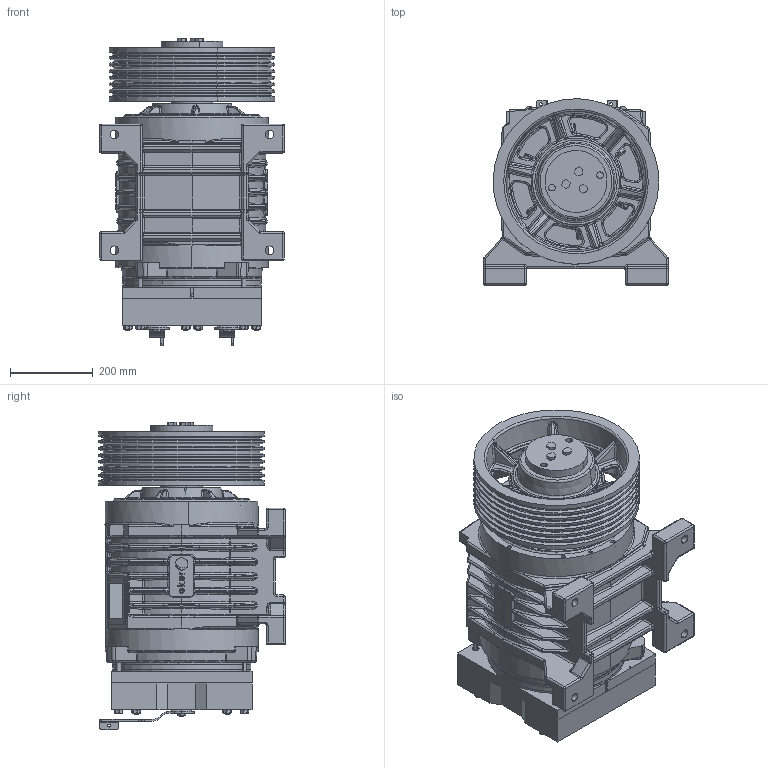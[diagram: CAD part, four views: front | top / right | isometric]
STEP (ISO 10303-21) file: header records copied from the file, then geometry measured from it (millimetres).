
FILE_DESCRIPTION (( 'STEP AP214' ), '1' );
FILE_NAME ('QS540160160.STEP', '2026-01-12T11:25:09', ( '' ), ( '' ), 'SwSTEP 2.0', 'SolidWorks 2023', '' );
FILE_SCHEMA (( 'AUTOMOTIVE_DESIGN' ));
Length unit declared in the file: millimetre
Products named in the file (1): QS540160160
Bounding box: 445.91 x 449.9 x 742.77 mm (x, y, z)
Surface area: 4330660.6 mm2 (no closed solid volume)
Topology: 0 solids, 78 shells, 3906 faces, 9210 edges, 5453 vertices
Faces by surface type: cylinder 1256, plane 976, bspline 602, cone 416, torus 340, sphere 316
Entity records: 140347 total; most frequent: CARTESIAN_POINT 54595, ORIENTED_EDGE 17902, DIRECTION 17854, EDGE_CURVE 8975, AXIS2_PLACEMENT_3D 7415, VERTEX_POINT 5408, EDGE_LOOP 4281, CIRCLE 4110
